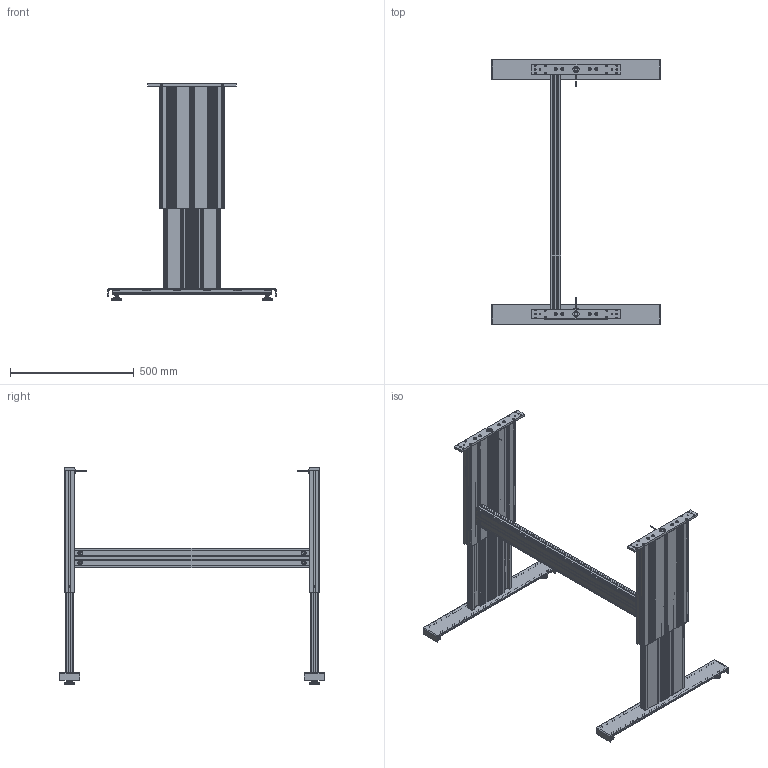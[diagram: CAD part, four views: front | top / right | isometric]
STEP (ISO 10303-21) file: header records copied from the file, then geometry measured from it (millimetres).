
FILE_DESCRIPTION(/* description */ ('Unknown'),/* implementation_level */ '2;1');
FILE_NAME(/* name */ '108.00192 Untergestell TT-2 1430 990_ausgefahren',/* time_stamp */ '2017-12-04T14:16:56+01:00',/* author */ ('Unknown'),/* organization */ ('Unknown'),/* preprocessor_version */ 'ST-DEVELOPER v16.7',/* originating_system */ 'DEX',/* authorisation */ $);
FILE_SCHEMA (('AUTOMOTIVE_DESIGN {1 0 10303 214 3 1 1}'));
Products named in the file (30): 108.00192; 106.00313_oa_0; 119.00203; 119.00154; 124.00004; 142.00188; 142.00166; 142.00031; 126.00102; 107.00028_oa_1; 115.00007_oa_2; 125.00021; 125.00033; 113.00002_70mm; 106.00313_oa_3; 107.00028_oa_4; 115.00007_oa_5; 115.00092; 119.00172; 142.00207; 127.00515; 127.00520; 127.00556; 127.00557; 127.00520_461_469_Kehlnaht 1_oa_6; 113.00095; 113.00099; 113.00096; 113.00097; 113.00098
Assembly tree (52 placements, depth 5):
  108.00192
    106.00313_oa_0
      119.00203
      119.00154
      124.00004
      142.00188  x2
      142.00166  x4
      142.00031
      126.00102
      107.00028_oa_1
        115.00007_oa_2
        125.00021
        125.00033
      113.00002_70mm
    106.00313_oa_3
      119.00203
      119.00154
      124.00004
      142.00188  x2
      142.00166  x4
      142.00031
      126.00102
      107.00028_oa_4
        115.00007_oa_5
        125.00021
        125.00033
      113.00002_70mm
    115.00092
      119.00172
      142.00207  x4
    127.00515  x2
      127.00520
        127.00556
        127.00557
        127.00520_461_469_Kehlnaht 1_oa_6
      113.00095
        113.00099
        113.00096
          113.00097
          113.00098
Bounding box: 680 x 1070 x 876.5 mm (x, y, z)
Volume: 6338463 mm3; surface area: 4501684.4 mm2
Topology: 73 solids, 81 shells, 4900 faces, 13928 edges, 9258 vertices
Faces by surface type: plane 3044, cylinder 1552, cone 196, torus 76, bspline 24, sphere 8
Full cylindrical faces by diameter (mm): 1.8 x4, 2.2 x2, 2.78 x2, 3.242 x4, 3.5 x2, 4 x6, 4.1 x2, 4.2 x2, 5 x12, 5.5 x8, 6.6 x8, 6.647 x16, 6.917 x4, 7.5 x4, 8 x18, 8.376 x6, 8.5 x20, 8.7 x8, 9 x2, 10 x8, 11.3 x8, 12 x6, 12.5 x10, 13 x4, 13.5 x6, 13.7 x2, 13.9 x4, 18 x16, 25 x10, 27.2 x4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
Entity records: 85503 total; most frequent: CARTESIAN_POINT 14627, ORIENTED_EDGE 13082, DIRECTION 12735, EDGE_CURVE 6541, LINE 4481, VECTOR 4481, VERTEX_POINT 4431, AXIS2_PLACEMENT_3D 4127
